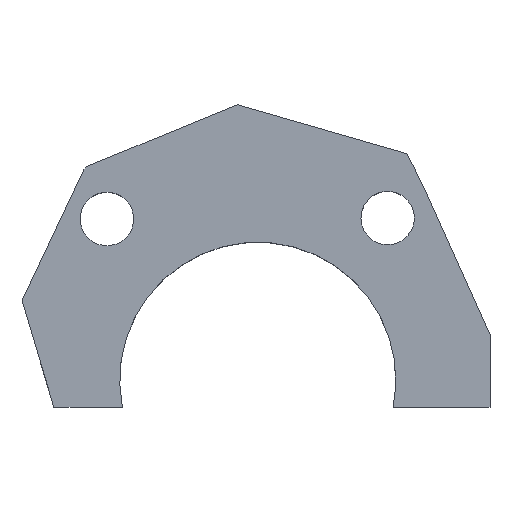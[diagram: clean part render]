
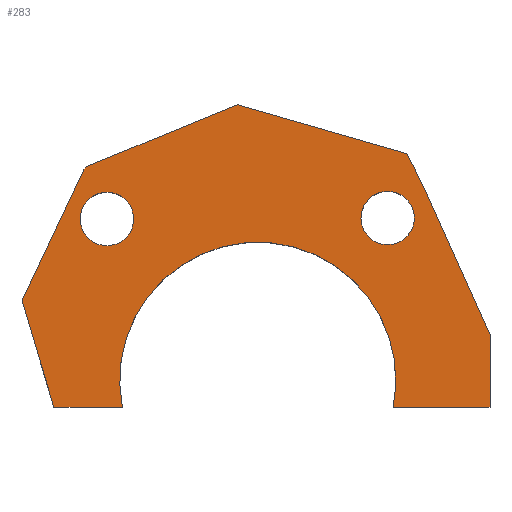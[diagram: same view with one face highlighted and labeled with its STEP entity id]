
A CAD part, top view. The second image highlights one B-rep face of the part: STEP entity #283.
In plain terms, the highlighted planar face has unit normal (0, 0, 1).
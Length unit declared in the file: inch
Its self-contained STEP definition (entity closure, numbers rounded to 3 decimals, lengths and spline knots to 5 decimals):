
#18=FACE_BOUND('',#38,.T.);
#19=FACE_BOUND('',#39,.T.);
#22=FACE_OUTER_BOUND('',#37,.T.);
#37=EDGE_LOOP('',(#193,#194,#195,#196,#197,#198,#199,#200,#201,#202,#203));
#38=EDGE_LOOP('',(#204));
#39=EDGE_LOOP('',(#205));
#56=LINE('',#416,#89);
#57=LINE('',#418,#90);
#58=LINE('',#420,#91);
#59=LINE('',#422,#92);
#60=LINE('',#424,#93);
#61=LINE('',#426,#94);
#62=LINE('',#428,#95);
#63=LINE('',#430,#96);
#64=LINE('',#432,#97);
#65=LINE('',#433,#98);
#89=VECTOR('',#339,0.3937);
#90=VECTOR('',#340,0.3937);
#91=VECTOR('',#341,0.3937);
#92=VECTOR('',#342,0.3937);
#93=VECTOR('',#343,0.3937);
#94=VECTOR('',#344,0.3937);
#95=VECTOR('',#345,0.3937);
#96=VECTOR('',#346,0.3937);
#97=VECTOR('',#347,0.3937);
#98=VECTOR('',#348,0.3937);
#122=CIRCLE('',#313,0.323);
#123=CIRCLE('',#314,0.0625);
#124=CIRCLE('',#315,0.0625);
#128=VERTEX_POINT('',#412);
#129=VERTEX_POINT('',#413);
#130=VERTEX_POINT('',#415);
#131=VERTEX_POINT('',#417);
#132=VERTEX_POINT('',#419);
#133=VERTEX_POINT('',#421);
#134=VERTEX_POINT('',#423);
#135=VERTEX_POINT('',#425);
#136=VERTEX_POINT('',#427);
#137=VERTEX_POINT('',#429);
#138=VERTEX_POINT('',#431);
#139=VERTEX_POINT('',#434);
#140=VERTEX_POINT('',#436);
#154=EDGE_CURVE('',#128,#129,#122,.T.);
#155=EDGE_CURVE('',#130,#128,#56,.T.);
#156=EDGE_CURVE('',#131,#130,#57,.T.);
#157=EDGE_CURVE('',#132,#131,#58,.T.);
#158=EDGE_CURVE('',#133,#132,#59,.T.);
#159=EDGE_CURVE('',#134,#133,#60,.T.);
#160=EDGE_CURVE('',#135,#134,#61,.T.);
#161=EDGE_CURVE('',#136,#135,#62,.T.);
#162=EDGE_CURVE('',#137,#136,#63,.T.);
#163=EDGE_CURVE('',#138,#137,#64,.T.);
#164=EDGE_CURVE('',#129,#138,#65,.T.);
#165=EDGE_CURVE('',#139,#139,#123,.T.);
#166=EDGE_CURVE('',#140,#140,#124,.T.);
#193=ORIENTED_EDGE('',*,*,#154,.F.);
#194=ORIENTED_EDGE('',*,*,#155,.F.);
#195=ORIENTED_EDGE('',*,*,#156,.F.);
#196=ORIENTED_EDGE('',*,*,#157,.F.);
#197=ORIENTED_EDGE('',*,*,#158,.F.);
#198=ORIENTED_EDGE('',*,*,#159,.F.);
#199=ORIENTED_EDGE('',*,*,#160,.F.);
#200=ORIENTED_EDGE('',*,*,#161,.F.);
#201=ORIENTED_EDGE('',*,*,#162,.F.);
#202=ORIENTED_EDGE('',*,*,#163,.F.);
#203=ORIENTED_EDGE('',*,*,#164,.F.);
#204=ORIENTED_EDGE('',*,*,#165,.F.);
#205=ORIENTED_EDGE('',*,*,#166,.F.);
#271=PLANE('',#312);
#283=ADVANCED_FACE('',(#22,#18,#19),#271,.T.);
#312=AXIS2_PLACEMENT_3D('',#411,#335,#336);
#313=AXIS2_PLACEMENT_3D('',#414,#337,#338);
#314=AXIS2_PLACEMENT_3D('',#435,#349,#350);
#315=AXIS2_PLACEMENT_3D('',#437,#351,#352);
#335=DIRECTION('center_axis',(0.,0.,1.));
#336=DIRECTION('ref_axis',(-1.,0.,0.));
#337=DIRECTION('center_axis',(0.,0.,1.));
#338=DIRECTION('ref_axis',(-1.,0.,0.));
#339=DIRECTION('',(-1.,0.,0.));
#340=DIRECTION('',(0.,-1.,0.));
#341=DIRECTION('',(0.41,-0.912,0.));
#342=DIRECTION('',(0.447,-0.894,0.));
#343=DIRECTION('',(0.961,-0.277,0.));
#344=DIRECTION('',(0.925,0.38,0.));
#345=DIRECTION('',(0.716,0.698,0.));
#346=DIRECTION('',(0.427,0.904,0.));
#347=DIRECTION('',(-0.286,0.958,0.));
#348=DIRECTION('',(-1.,0.,0.));
#349=DIRECTION('center_axis',(0.,0.,1.));
#350=DIRECTION('ref_axis',(-1.,0.,0.));
#351=DIRECTION('center_axis',(0.,0.,1.));
#352=DIRECTION('ref_axis',(-1.,0.,0.));
#411=CARTESIAN_POINT('Origin',(1.99582,-2.20916,0.388));
#412=CARTESIAN_POINT('',(2.31681,-2.56294,0.388));
#413=CARTESIAN_POINT('',(1.68319,-2.56294,0.388));
#414=CARTESIAN_POINT('Origin',(2.,-2.5,0.388));
#415=CARTESIAN_POINT('',(2.54329,-2.56294,0.388));
#416=CARTESIAN_POINT('',(2.15631,-2.56294,0.388));
#417=CARTESIAN_POINT('',(2.54329,-2.39309,0.388));
#418=CARTESIAN_POINT('',(2.54329,-2.38605,0.388));
#419=CARTESIAN_POINT('',(2.39075,-2.05369,0.388));
#420=CARTESIAN_POINT('',(2.4629,-2.21423,0.388));
#421=CARTESIAN_POINT('',(2.3488,-1.96979,0.388));
#422=CARTESIAN_POINT('',(2.38235,-2.03689,0.388));
#423=CARTESIAN_POINT('',(1.95219,-1.85538,0.388));
#424=CARTESIAN_POINT('',(2.21774,-1.93198,0.388));
#425=CARTESIAN_POINT('',(1.6,-2.,0.388));
#426=CARTESIAN_POINT('',(1.90871,-1.87324,0.388));
#427=CARTESIAN_POINT('',(1.59331,-2.00653,0.388));
#428=CARTESIAN_POINT('',(1.64912,-1.95208,0.388));
#429=CARTESIAN_POINT('',(1.44835,-2.31326,0.388));
#430=CARTESIAN_POINT('',(1.59091,-2.0116,0.388));
#431=CARTESIAN_POINT('',(1.52297,-2.56294,0.388));
#432=CARTESIAN_POINT('',(1.45651,-2.34057,0.388));
#433=CARTESIAN_POINT('',(1.75939,-2.56294,0.388));
#434=CARTESIAN_POINT('',(1.70952,-2.12275,0.388));
#435=CARTESIAN_POINT('Origin',(1.64702,-2.12275,0.388));
#436=CARTESIAN_POINT('',(2.36627,-2.12055,0.388));
#437=CARTESIAN_POINT('Origin',(2.30377,-2.12055,0.388));
